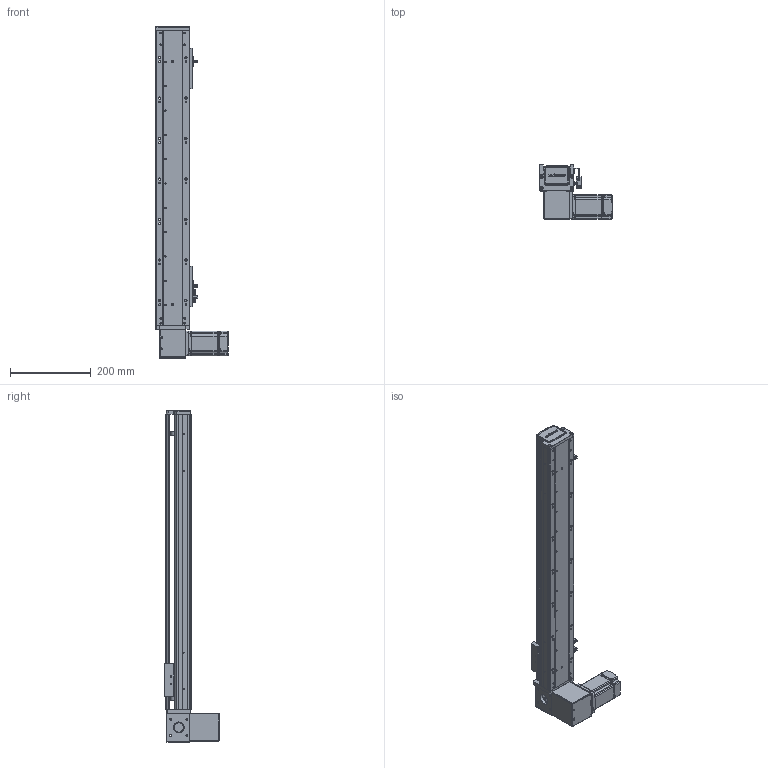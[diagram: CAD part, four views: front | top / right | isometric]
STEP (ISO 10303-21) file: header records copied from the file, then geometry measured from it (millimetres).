
FILE_DESCRIPTION (( 'STEP AP203' ), '1' );
FILE_NAME ('RY80-T-300-DR.SLDASM_550.step', '2021-03-01T01:49:28', ( '盈信电脑' ), ( '东莞市道滘镇水果街19号' ), 'SwSTEP 2.0', 'SolidWorks 2012', '' );
FILE_SCHEMA (( 'CONFIG_CONTROL_DESIGN' ));
Length unit declared in the file: millimetre
Products named in the file (18): RY80-T-300-DR.SLDASM_550; RY80-T-M4蹟翐3; 1; RY80-T-上下折同步轮盖板; RY80-T萇儂假蚾啣; RY80-T翋肮祭謫裔啣; RY80-T肮祭謫狟殏俋欶; RY80-T肮祭湍揤輸2; RY80-T-翋肮祭謫釱; RY80-T肮祭湍揤輸1; 滅袉蝶18-10; 覜茼ん672; 672嫖萇羲壽假蚾釱; RY80-T綴裔啣; RY80俋离覜茼え; RY80-T-300-DR倰第奻裔啣_550; RY80-T肮祭謫臏賑輸; RY80-T-300-DR倰第菁釱_550
Assembly tree (21 placements, depth 2):
  RY80-T-300-DR.SLDASM_550
    RY80-T-300-DR倰第菁釱_550
    RY80-T肮祭謫臏賑輸
    RY80-T-300-DR倰第奻裔啣_550
    RY80-T綴裔啣
    672嫖萇羲壽假蚾釱  x2
    覜茼ん672  x3
    RY80俋离覜茼え
    RY80-T-翋肮祭謫釱
    RY80-T肮祭湍揤輸1
    RY80-T肮祭湍揤輸2
    滅袉蝶18-10  x2
    RY80-T翋肮祭謫裔啣
    RY80-T-上下折同步轮盖板
    RY80-T肮祭謫狟殏俋欶
    RY80-T萇儂假蚾啣
    1
    RY80-T-M4蹟翐3
Bounding box: 180 x 134.5 x 820 mm (x, y, z)
Volume: 1580005.6 mm3; surface area: 642710.9 mm2
Topology: 21 solids, 21 shells, 2406 faces, 6652 edges, 4318 vertices
Faces by surface type: plane 1307, cylinder 902, cone 141, bspline 56
Entity records: 76648 total; most frequent: CARTESIAN_POINT 18692, ORIENTED_EDGE 11948, DIRECTION 11188, EDGE_CURVE 5974, VERTEX_POINT 3922, AXIS2_PLACEMENT_3D 3742, LINE 3704, VECTOR 3704
